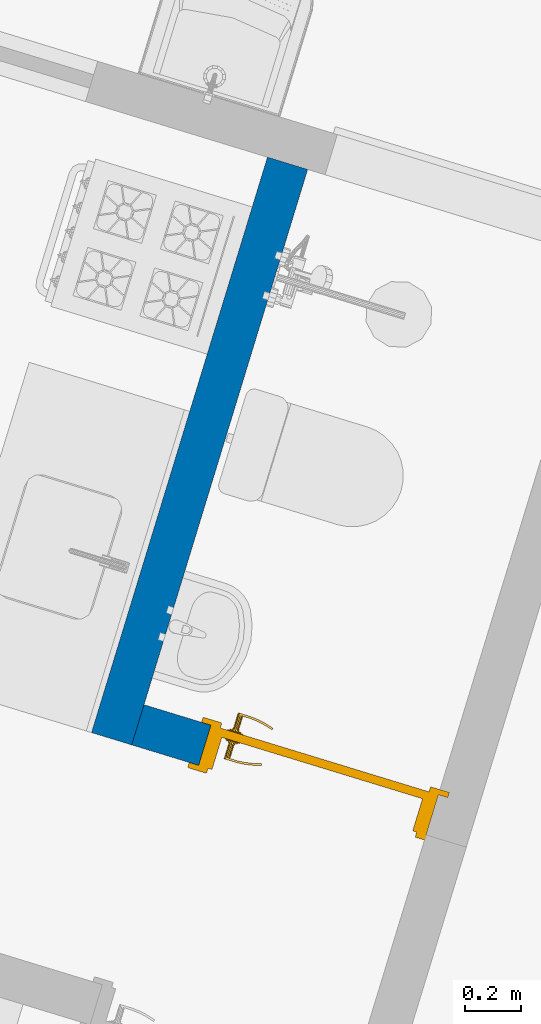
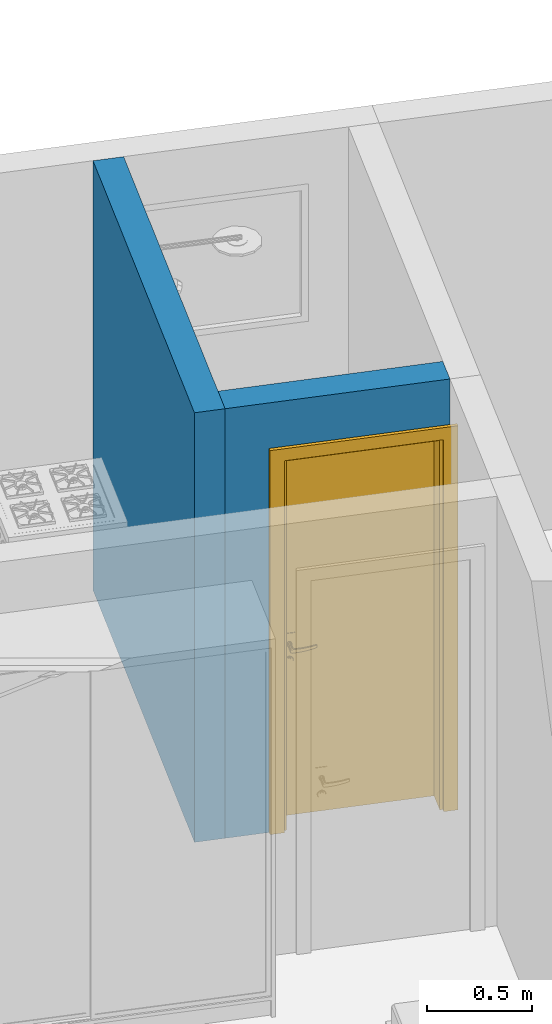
# One storey, part 7 of 13: 2 walls, 1 door, 1 opening.
"""IFC2X3 building model written with IfcOpenShell, lengths in millimetres."""

from ifc_helpers import new_model, entity, si_unit, converted_unit, derived_unit, money_unit, direction, frame, origin_with_axes, place, context, subcontext, project, spatial, open_shell, faceted_brep, surface_model, material, type_object, element, fill, save


model = new_model("IFC2X3")

# Units and contexts
model_context = context("Model", 3, precision=0.01, world=origin_with_axes(), true_north=direction((0.0, 1.0)))
body_context = subcontext(model_context, "Body", "Model", "MODEL_VIEW")
ifc_project = project(units=[si_unit("LENGTHUNIT", "METRE", prefix="MILLI"), si_unit("AREAUNIT", "SQUARE_METRE"), si_unit("VOLUMEUNIT", "CUBIC_METRE"), converted_unit("PLANEANGLEUNIT", "DEGREE", entity("IfcPlaneAngleMeasure", 0.0174532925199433), si_unit("PLANEANGLEUNIT", "RADIAN"), dimensions=[0, 0, 0, 0, 0, 0, 0]), money_unit("USD"), converted_unit("TIMEUNIT", "Year", entity("IfcTimeMeasure", 31557600.0), si_unit("TIMEUNIT", "SECOND"), dimensions=[0, 0, 1, 0, 0, 0, 0]), si_unit("MASSUNIT", "GRAM", prefix="KILO"), si_unit("THERMODYNAMICTEMPERATUREUNIT", "DEGREE_CELSIUS"), si_unit("LUMINOUSINTENSITYUNIT", "LUMEN"), si_unit("ENERGYUNIT", "JOULE", prefix="MEGA"), derived_unit("THERMALCONDUCTANCEUNIT", [(si_unit("POWERUNIT", "WATT"), 1), (si_unit("LENGTHUNIT", "METRE"), -1), (si_unit("THERMODYNAMICTEMPERATUREUNIT", "KELVIN"), -1)]), derived_unit("SPECIFICHEATCAPACITYUNIT", [(si_unit("ENERGYUNIT", "JOULE"), 1), (si_unit("MASSUNIT", "GRAM", prefix="KILO"), -1), (si_unit("THERMODYNAMICTEMPERATUREUNIT", "KELVIN"), -1)]), derived_unit("MASSDENSITYUNIT", [(si_unit("MASSUNIT", "GRAM", prefix="KILO"), 1), (si_unit("VOLUMEUNIT", "CUBIC_METRE"), -1)])], contexts=[model_context])

# Site, building, storey
site_placement = place(None, frame((0.0, 0.0, 0.0), z_axis=(0.0, 0.0, 1.0), x_axis=(0.9563047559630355, -0.2923717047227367, 0.0)))
site = spatial("IfcSite", under=ifc_project, at=site_placement, Name="Site", CompositionType="ELEMENT")
building_placement = place(site_placement, origin_with_axes())
building = spatial("IfcBuilding", under=site, at=building_placement, Name="Casa Térrea Isolada", CompositionType="ELEMENT")
storey_placement = place(building_placement, origin_with_axes())
storey = spatial("IfcBuildingStorey", under=building, at=storey_placement, Name="Terreo", CompositionType="ELEMENT", Elevation=0.0)

# Wall
ifc_material = material(Name="Bloco de Concreto - Estrutural")
wall_type = type_object("IfcWallType", Name="Bloco de Concreto - Estrutural 150", PredefinedType="NOTDEFINED")
wall_1_placement = place(storey_placement, frame((5125.003384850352, 4224.999878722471, 0.0), z_axis=(0.0, 0.0, 1.0), x_axis=(-4.610697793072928e-07, 0.9999999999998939, 0.0)))
element("IfcWall", 1, at=wall_1_placement, inside=storey, type_object=wall_type, material=ifc_material, Name="Parede 07", context=body_context, shape_type="Brep", body=[
    faceted_brep([(2075.002484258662, -75.00000000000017, 2500.0), (2075.002484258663, 75.00000000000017, 2500.0), (-74.99999999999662, 74.99999999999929, 2500.0), (-74.99999999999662, -75.00000000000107, 2500.0), (2075.002484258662, -75.00000000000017, 0.0), (2075.002484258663, 75.00000000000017, 0.0), (-74.99999999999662, 74.99999999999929, 0.0), (-74.99999999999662, -75.00000000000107, 0.0)], [[[0, 1, 2, 3]], [[1, 0, 4, 5]], [[1, 5, 6, 2]], [[7, 3, 2, 6]], [[4, 0, 3, 7]], [[5, 4, 7, 6]]]),
])

# Wall, opening, door
wall_2_placement = place(storey_placement, frame((6450.002847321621, 4225.000489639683, 0.0), z_axis=(0.0, 0.0, 1.0), x_axis=(-0.9999999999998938, -4.610697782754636e-07, 0.0)))
wall_2 = element("IfcWall", 2, at=wall_2_placement, inside=storey, type_object=wall_type, material=ifc_material, Name="Parede 02", context=body_context, shape_type="Brep", body=[
    faceted_brep([(150.0000345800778, 75.00000000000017, 2200.0), (150.0000345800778, -75.00000000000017, 2200.0), (150.0018788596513, -75.00000000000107, 2500.0), (150.0018788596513, 74.99999999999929, 2500.0), (1000.000034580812, -75.00000000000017, 2200.0), (1000.000034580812, 75.00000000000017, 2200.0), (1000.000034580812, -75.00000000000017, 0.0), (1249.999462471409, -75.00000000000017, 0.0), (1249.999462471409, -75.00000000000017, 2500.0), (1249.999462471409, 75.00000000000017, 2500.0), (1249.999462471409, 74.99999999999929, 0.0), (1000.000034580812, 74.99999999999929, 0.0)], [[[0, 1, 2, 3]], [[4, 1, 0, 5]], [[4, 6, 7, 8, 2, 1]], [[9, 3, 2, 8]], [[5, 0, 3, 9, 10, 11]], [[6, 4, 5, 11]], [[6, 11, 10, 7]], [[8, 7, 10, 9]]]),
])
opening_placement = place(wall_2_placement, frame((575.0000345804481, 0.0, 0.0), z_axis=(0.0, 0.0, 1.0), x_axis=(1.0, 0.0, 0.0)))
opening = element("IfcOpeningElement", 3, at=opening_placement, cuts=wall_2, Name="Porta 04", context=body_context, shape_type="Brep", body=[
    faceted_brep([(425.0000000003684, -76.00061091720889, 2200.0), (-425.0000000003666, -76.00061091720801, 2200.0), (-425.0000000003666, -76.00061091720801, 0.0), (425.0000000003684, -76.00061091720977, 0.0), (460.0000000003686, -76.00061091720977, 0.0), (460.0000000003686, -76.00061091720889, 2235.0), (-460.0000000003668, -76.00061091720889, 2235.0), (-460.0000000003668, -76.00061091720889, 0.0), (425.0000000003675, -75.00000000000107, 0.0), (-425.0000000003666, -74.99999999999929, 0.0), (-425.0000000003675, 75.00000000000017, 0.0), (-425.0000000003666, 76.00061091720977, 0.0), (425.0000000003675, 76.00061091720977, 0.0), (425.0000000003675, 74.99999999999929, 0.0), (460.0000000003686, -75.00000000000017, 0.0), (460.0000000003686, -74.99999999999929, 2235.0), (-460.0000000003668, -75.00000000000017, 2235.0), (-460.0000000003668, -75.00000000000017, 0.0), (-425.0000000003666, -74.99999999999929, 2200.0), (-425.0000000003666, 75.00000000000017, 2200.0), (-460.0000000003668, 74.99999999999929, 0.0), (-460.0000000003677, 76.00061091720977, 0.0), (-460.0000000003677, 76.00061091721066, 2235.0), (460.0000000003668, 76.00061091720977, 2235.0), (460.0000000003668, 76.00061091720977, 0.0), (460.0000000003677, 75.00000000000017, 0.0), (425.0000000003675, -75.00000000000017, 2200.0), (425.0000000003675, 74.99999999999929, 2200.0), (460.0000000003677, 75.00000000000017, 2235.0), (-460.0000000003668, 75.00000000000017, 2235.0)], [[[0, 1, 2, 3]], [[2, 1, 0, 3, 4, 5, 6, 7]], [[8, 3, 2, 9, 10, 11, 12, 13]], [[3, 8, 14, 4]], [[14, 15, 5, 4]], [[15, 16, 6, 5]], [[16, 17, 7, 6]], [[9, 2, 7, 17]], [[9, 18, 19, 10]], [[11, 10, 20, 21]], [[12, 11, 21, 22, 23, 24]], [[13, 12, 24, 25]], [[26, 8, 13, 27]], [[26, 18, 9, 17, 16, 15, 14, 8]], [[18, 26, 27, 19]], [[10, 19, 27, 13, 25, 28, 29, 20]], [[20, 29, 22, 21]], [[29, 28, 23, 22]], [[28, 25, 24, 23]]]),
])
door_style = type_object("IfcDoorStyle", Name="Porta 26", ConstructionType="NOTDEFINED", OperationType="SINGLE_SWING_RIGHT", ParameterTakesPrecedence=False, Sizeable=False)
door_placement = place(opening_placement, frame((425.0000000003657, 0.0, 0.0), z_axis=(0.0, 0.0, 1.0), x_axis=(-1.0, 0.0, 0.0)))
door = element("IfcDoor", 4, at=door_placement, inside=storey, type_object=door_style, Name="Porta 04", OverallHeight=2200.0, OverallWidth=850.0, context=body_context, shape_type="SurfaceModel", body=[
    faceted_brep([(-35.00000000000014, -94.00000000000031, 0.0), (-35.00000000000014, -75.00000000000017, 0.0), (35.00000000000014, -75.00000000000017, 0.0), (35.00000000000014, -94.00000000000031, 0.0), (-35.00000000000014, -94.00000000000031, 2235.0), (-35.00000000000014, -75.00000000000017, 2235.0), (35.00000000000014, -75.00000000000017, 2165.0), (35.00000000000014, -94.0000000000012, 2165.0)], [[[0, 1, 2, 3]], [[4, 5, 1, 0]], [[1, 5, 6, 2]], [[3, 2, 6, 7]], [[0, 3, 7, 4]], [[7, 6, 5, 4]]]),
    faceted_brep([(885.0000000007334, -94.00000000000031, 2235.0), (885.0000000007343, -75.00000000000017, 2235.0), (815.0000000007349, -75.00000000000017, 2165.0), (815.0000000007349, -94.0000000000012, 2165.0), (885.0000000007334, -94.00000000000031, 0.0), (885.0000000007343, -74.99999999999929, 0.0), (815.0000000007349, -75.00000000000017, 0.0), (815.0000000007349, -94.00000000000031, 0.0)], [[[0, 1, 2, 3]], [[4, 5, 1, 0]], [[1, 5, 6, 2]], [[3, 2, 6, 7]], [[0, 3, 7, 4]], [[7, 6, 5, 4]]]),
    faceted_brep([(-35.00000000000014, -94.00000000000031, 2235.0), (-35.00000000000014, -75.00000000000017, 2235.0), (35.00000000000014, -75.00000000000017, 2165.0), (35.00000000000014, -94.0000000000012, 2165.0), (885.0000000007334, -94.00000000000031, 2235.0), (885.0000000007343, -75.00000000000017, 2235.0), (815.0000000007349, -75.00000000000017, 2165.0), (815.0000000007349, -94.0000000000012, 2165.0)], [[[0, 1, 2, 3]], [[4, 5, 1, 0]], [[1, 5, 6, 2]], [[3, 2, 6, 7]], [[0, 3, 7, 4]], [[7, 6, 5, 4]]]),
    faceted_brep([(-35.00000000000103, 93.99999999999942, 0.0), (35.00000000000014, 93.99999999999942, 0.0), (35.00000000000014, 75.00000000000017, 0.0), (-35.00000000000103, 75.00000000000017, 0.0), (-35.00000000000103, 93.99999999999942, 2235.0), (35.00000000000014, 93.99999999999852, 2165.0), (35.00000000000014, 75.00000000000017, 2165.0), (-35.00000000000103, 74.99999999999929, 2235.0)], [[[0, 1, 2, 3]], [[0, 4, 5, 1]], [[1, 5, 6, 2]], [[3, 2, 6, 7]], [[4, 0, 3, 7]], [[5, 4, 7, 6]]]),
    faceted_brep([(885.0000000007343, 93.99999999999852, 2235.0), (815.0000000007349, 93.99999999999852, 2165.0), (815.0000000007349, 74.99999999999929, 2165.0), (885.0000000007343, 75.00000000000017, 2235.0), (885.0000000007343, 93.99999999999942, 0.0), (815.0000000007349, 93.99999999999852, 0.0), (815.0000000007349, 75.00000000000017, 0.0), (885.0000000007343, 75.00000000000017, 0.0)], [[[0, 1, 2, 3]], [[0, 4, 5, 1]], [[1, 5, 6, 2]], [[3, 2, 6, 7]], [[4, 0, 3, 7]], [[5, 4, 7, 6]]]),
    faceted_brep([(-35.00000000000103, 93.99999999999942, 2235.0), (35.00000000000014, 93.99999999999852, 2165.0), (35.00000000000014, 75.00000000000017, 2165.0), (-35.00000000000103, 74.99999999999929, 2235.0), (885.0000000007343, 93.99999999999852, 2235.0), (815.0000000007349, 93.99999999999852, 2165.0), (815.0000000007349, 74.99999999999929, 2165.0), (885.0000000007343, 75.00000000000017, 2235.0)], [[[0, 1, 2, 3]], [[0, 4, 5, 1]], [[1, 5, 6, 2]], [[3, 2, 6, 7]], [[4, 0, 3, 7]], [[5, 4, 7, 6]]]),
    faceted_brep([(49.99999999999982, 44.99999999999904, 0.0), (49.99999999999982, 44.99999999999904, 2150.0), (49.99999999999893, -74.99999999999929, 2150.0), (49.99999999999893, -74.99999999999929, 0.0), (40.00000000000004, 44.99999999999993, 2150.0), (40.00000000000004, 44.99999999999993, 0.0), (39.99999999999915, 75.00000000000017, 2150.0), (0.0, 75.00000000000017, 2150.0), (0.0, -74.99999999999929, 2150.0), (0.0, -74.99999999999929, 0.0), (0.0, 75.00000000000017, 0.0), (39.99999999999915, 75.00000000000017, 0.0)], [[[0, 1, 2, 3]], [[4, 1, 0, 5]], [[4, 6, 7, 8, 2, 1]], [[3, 2, 8, 9]], [[5, 0, 3, 9, 10, 11]], [[6, 4, 5, 11]], [[6, 11, 10, 7]], [[10, 9, 8, 7]]]),
    faceted_brep([(810.0000000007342, 44.99999999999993, 2150.0), (800.0000000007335, 44.99999999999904, 2150.0), (800.0000000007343, -75.00000000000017, 2150.0), (850.0000000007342, -75.00000000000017, 2150.0), (850.0000000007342, 74.99999999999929, 2150.0), (810.0000000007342, 75.00000000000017, 2150.0), (810.0000000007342, 44.99999999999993, 0.0), (800.0000000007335, 44.99999999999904, 0.0), (800.0000000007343, -75.00000000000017, 0.0), (850.0000000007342, -75.00000000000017, 0.0), (850.0000000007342, 75.00000000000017, 0.0), (810.0000000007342, 75.00000000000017, 0.0)], [[[0, 1, 2, 3, 4, 5]], [[1, 0, 6, 7]], [[1, 7, 8, 2]], [[3, 2, 8, 9]], [[4, 3, 9, 10]], [[11, 5, 4, 10]], [[0, 5, 11, 6]], [[6, 11, 10, 9, 8, 7]]]),
    faceted_brep([(39.99999999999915, 75.00000000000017, 2160.0), (39.99999999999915, 75.00000000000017, 2150.0), (0.0, 75.00000000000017, 2150.0), (0.0, 75.00000000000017, 2200.0), (850.0000000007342, 74.99999999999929, 2200.0), (850.0000000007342, 74.99999999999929, 2150.0), (810.0000000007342, 75.00000000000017, 2150.0), (810.0000000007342, 75.00000000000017, 2160.0), (40.00000000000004, 44.99999999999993, 2160.0), (40.00000000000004, 44.99999999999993, 2150.0), (49.99999999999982, 44.99999999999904, 2150.0), (49.99999999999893, -74.99999999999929, 2150.0), (0.0, -74.99999999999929, 2150.0), (0.0, -74.99999999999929, 2200.0), (850.0000000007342, -75.00000000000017, 2200.0), (850.0000000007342, -75.00000000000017, 2150.0), (810.0000000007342, 44.99999999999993, 2150.0), (800.0000000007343, -75.00000000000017, 2150.0), (800.0000000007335, 44.99999999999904, 2150.0), (810.0000000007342, 44.99999999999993, 2160.0)], [[[0, 1, 2, 3, 4, 5, 6, 7]], [[1, 0, 8, 9]], [[9, 10, 11, 12, 2, 1]], [[2, 12, 13, 3]], [[3, 13, 14, 4]], [[4, 14, 15, 5]], [[16, 6, 5, 15, 17, 18]], [[7, 6, 16, 19]], [[0, 7, 19, 8]], [[16, 18, 10, 9, 8, 19]], [[10, 18, 17, 11]], [[17, 15, 14, 13, 12, 11]]]),
    faceted_brep([(61.50000000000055, 44.99999999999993, 1060.0), (61.49999999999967, 42.0000000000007, 1060.0), (118.5000000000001, 41.99999999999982, 1060.0), (118.5000000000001, 44.99999999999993, 1060.0), (61.50000000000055, 44.99999999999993, 870.0), (61.49999999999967, 42.0000000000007, 870.0), (118.5000000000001, 42.0000000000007, 870.0), (118.5000000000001, 44.99999999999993, 870.0)], [[[0, 1, 2, 3]], [[4, 5, 1, 0]], [[1, 5, 6, 2]], [[3, 2, 6, 7]], [[0, 3, 7, 4]], [[7, 6, 5, 4]]]),
    faceted_brep([(89.99999999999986, -19.00000000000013, 990.0), (89.99999999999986, -25.9999999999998, 990.0), (84.99999999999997, -25.9999999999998, 991.3397459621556), (84.99999999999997, -19.00000000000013, 991.3397459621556), (115.0000000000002, -19.00000000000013, 990.0), (115.0000000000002, -25.9999999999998, 990.0), (115.0000000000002, -25.9999999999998, 1010.0), (89.99999999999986, -25.9999999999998, 1010.0), (84.99999999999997, -25.9999999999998, 1008.660254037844), (81.33974596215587, -25.9999999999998, 1005.0), (79.99999999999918, -25.9999999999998, 1000.0), (81.33974596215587, -25.9999999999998, 995.0), (81.33974596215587, -19.00000000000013, 995.0), (79.99999999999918, -19.00000000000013, 1000.0), (81.33974596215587, -19.00000000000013, 1005.0), (84.99999999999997, -19.00000000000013, 1008.660254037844), (89.99999999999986, -19.00000000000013, 1010.0), (115.0000000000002, -19.00000000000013, 1010.0)], [[[0, 1, 2, 3]], [[4, 5, 1, 0]], [[1, 5, 6, 7, 8, 9, 10, 11, 2]], [[3, 2, 11, 12]], [[0, 3, 12, 13, 14, 15, 16, 17, 4]], [[17, 6, 5, 4]], [[16, 7, 6, 17]], [[15, 8, 7, 16]], [[14, 9, 8, 15]], [[13, 10, 9, 14]], [[12, 11, 10, 13]]]),
    surface_model("IfcShellBasedSurfaceModel", [(115.0000000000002, -19.00000000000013, 1010.0), (128.4039094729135, -25.9999999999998, 1009.607300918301), (128.0982828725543, -19.00000000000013, 1009.607300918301), (115.0000000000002, -25.9999999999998, 1010.0), (155.109716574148, -23.66354462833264, 1008.821902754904), (128.0982828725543, -19.00000000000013, 990.3926990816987), (115.0000000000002, -19.00000000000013, 990.0), (115.0000000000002, -25.9999999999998, 990.0), (128.4039094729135, -25.9999999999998, 990.3926990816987), (155.109716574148, -23.66354462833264, 991.1780972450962), (154.1951627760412, -16.7168188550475, 1008.821902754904), (154.1951627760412, -16.7168188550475, 991.1780972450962), (181.5102645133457, -19.00841572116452, 991.9634954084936), (181.5102645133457, -19.00841572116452, 1008.036504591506), (179.9937438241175, -12.16783295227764, 1008.036504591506), (179.9937438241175, -12.16783295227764, 991.9634954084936), (207.4046291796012, -12.07004162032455, 992.7488935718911), (207.4046291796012, -12.07004162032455, 1007.251106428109), (205.2976832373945, -5.387662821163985, 1007.251106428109), (205.2976832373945, -5.387662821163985, 992.7488935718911), (215.4612043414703, -9.137688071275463, 993.0), (215.4612043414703, -9.137688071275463, 1007.0), (213.1705579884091, -2.522170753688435, 1007.0), (213.1705579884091, -2.522170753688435, 993.0)], [open_shell([[[0, 1, 2]], [[0, 3, 1]], [[2, 1, 4]], [[0, 2, 5, 6]], [[3, 7, 8, 1]], [[1, 8, 9, 4]], [[2, 4, 10]], [[2, 10, 11, 5]], [[5, 7, 6]], [[5, 8, 7]], [[11, 9, 8]], [[4, 9, 12, 13]], [[10, 4, 13]], [[10, 14, 15, 11]], [[11, 8, 5]], [[15, 9, 11]], [[15, 12, 9]], [[13, 12, 16, 17]], [[10, 13, 14]], [[14, 18, 19, 15]], [[19, 12, 15]], [[19, 16, 12]], [[17, 16, 20, 21]], [[14, 13, 17]], [[14, 17, 18]], [[18, 22, 23, 19]], [[23, 16, 19]], [[23, 20, 16]], [[22, 21, 20, 23]], [[18, 17, 21]], [[18, 21, 22]]])]),
    faceted_brep([(100.3923048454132, 32.00000000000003, 994.0), (101.2583302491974, 41.99999999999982, 993.5), (102.9999999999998, 41.99999999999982, 1000.0), (102.0000000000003, 32.00000000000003, 1000.0), (96.00000000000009, 32.00000000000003, 989.6076951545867), (96.4999999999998, 41.99999999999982, 988.7416697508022), (89.99999999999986, 42.0000000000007, 987.0), (83.49999999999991, 42.0000000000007, 988.7416697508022), (78.74166975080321, 41.99999999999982, 993.4999999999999), (76.99999999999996, 41.99999999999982, 1000.0), (78.74166975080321, 41.99999999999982, 1006.5), (83.49999999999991, 42.0000000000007, 1011.258330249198), (89.99999999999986, 42.0000000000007, 1013.0), (96.4999999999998, 41.99999999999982, 1011.258330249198), (101.2583302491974, 41.99999999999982, 1006.5), (100.3923048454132, 32.00000000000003, 1006.0), (96.00000000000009, 32.00000000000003, 1010.392304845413), (89.99999999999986, 31.99999999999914, 1012.0), (84.00000000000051, 32.00000000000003, 1010.392304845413), (79.60769515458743, 32.00000000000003, 1006.0), (78.00000000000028, 31.99999999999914, 1000.0), (79.60769515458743, 32.00000000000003, 994.0), (84.00000000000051, 32.00000000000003, 989.6076951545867), (89.99999999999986, 31.99999999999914, 988.0)], [[[0, 1, 2, 3]], [[4, 5, 1, 0]], [[2, 1, 5, 6, 7, 8, 9, 10, 11, 12, 13, 14]], [[3, 2, 14, 15]], [[3, 15, 16, 17, 18, 19, 20, 21, 22, 23, 4, 0]], [[23, 6, 5, 4]], [[22, 7, 6, 23]], [[21, 8, 7, 22]], [[20, 9, 8, 21]], [[19, 10, 9, 20]], [[18, 11, 10, 19]], [[17, 12, 11, 18]], [[16, 13, 12, 17]], [[15, 14, 13, 16]]]),
    faceted_brep([(107.3205080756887, 37.99999999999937, 895.0), (109.052558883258, 42.0000000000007, 894.0), (112.000000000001, 42.0000000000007, 905.0), (109.9999999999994, 37.99999999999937, 905.0), (99.99999999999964, 38.00000000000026, 887.6794919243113), (101.0, 41.99999999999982, 885.9474411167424), (89.99999999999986, 42.0000000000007, 883.0), (79.00000000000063, 41.99999999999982, 885.9474411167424), (70.94744111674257, 41.99999999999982, 894.0), (67.99999999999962, 41.99999999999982, 905.0), (70.94744111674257, 41.99999999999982, 916.0), (79.00000000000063, 41.99999999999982, 924.0525588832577), (89.99999999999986, 42.0000000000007, 927.0), (101.0, 41.99999999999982, 924.0525588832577), (109.052558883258, 42.0000000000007, 916.0), (107.3205080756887, 37.99999999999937, 915.0), (99.99999999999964, 38.00000000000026, 922.3205080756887), (89.99999999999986, 37.99999999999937, 925.0), (79.99999999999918, 37.99999999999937, 922.3205080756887), (72.67949192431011, 38.00000000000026, 915.0), (70.00000000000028, 37.99999999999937, 905.0), (72.67949192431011, 38.00000000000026, 895.0), (79.99999999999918, 37.99999999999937, 887.6794919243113), (89.99999999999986, 37.99999999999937, 885.0)], [[[0, 1, 2, 3]], [[4, 5, 1, 0]], [[2, 1, 5, 6, 7, 8, 9, 10, 11, 12, 13, 14]], [[3, 2, 14, 15]], [[3, 15, 16, 17, 18, 19, 20, 21, 22, 23, 4, 0]], [[23, 6, 5, 4]], [[22, 7, 6, 23]], [[21, 8, 7, 22]], [[20, 9, 8, 21]], [[19, 10, 9, 20]], [[18, 11, 10, 19]], [[17, 12, 11, 18]], [[16, 13, 12, 17]], [[15, 14, 13, 16]]]),
    faceted_brep([(94.94974746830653, 35.99999999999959, 909.0502525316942), (95.65685424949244, 38.00000000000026, 908.3431457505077), (97.99999999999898, 38.00000000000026, 914.0), (96.99999999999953, 35.9999999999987, 914.0), (89.99999999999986, 35.9999999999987, 907.0), (89.99999999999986, 37.99999999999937, 906.0), (84.34314575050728, 37.99999999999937, 908.3431457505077), (81.99999999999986, 37.99999999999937, 914.0), (84.34314575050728, 37.99999999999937, 919.6568542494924), (89.99999999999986, 37.99999999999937, 922.0), (95.65685424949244, 38.00000000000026, 919.6568542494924), (94.94974746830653, 35.99999999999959, 918.9497474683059), (89.99999999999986, 35.9999999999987, 921.0), (85.05025253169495, 35.9999999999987, 918.9497474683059), (82.99999999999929, 35.99999999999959, 914.0), (85.05025253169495, 35.9999999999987, 909.0502525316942)], [[[0, 1, 2, 3]], [[4, 5, 1, 0]], [[2, 1, 5, 6, 7, 8, 9, 10]], [[3, 2, 10, 11]], [[3, 11, 12, 13, 14, 15, 4, 0]], [[15, 6, 5, 4]], [[14, 7, 6, 15]], [[13, 8, 7, 14]], [[12, 9, 8, 13]], [[11, 10, 9, 12]]]),
    faceted_brep([(89.99999999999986, 31.99999999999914, 1010.0), (89.99999999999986, -19.00000000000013, 1010.0), (95.00000000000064, -19.00000000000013, 1008.660254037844), (94.99999999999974, 32.00000000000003, 1008.660254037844), (84.99999999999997, 32.00000000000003, 1008.660254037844), (84.99999999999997, -19.00000000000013, 1008.660254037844), (81.33974596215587, -19.00000000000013, 1005.0), (79.99999999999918, -19.00000000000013, 1000.0), (81.33974596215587, -19.00000000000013, 995.0), (84.99999999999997, -19.00000000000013, 991.3397459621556), (89.99999999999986, -19.00000000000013, 990.0), (95.00000000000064, -19.00000000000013, 991.3397459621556), (98.66025403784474, -19.00000000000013, 995.0), (99.99999999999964, -19.00000000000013, 1000.0), (98.66025403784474, -19.00000000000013, 1005.0), (98.66025403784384, 32.00000000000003, 1005.0), (99.99999999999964, 32.00000000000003, 1000.0), (98.66025403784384, 32.00000000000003, 995.0), (94.99999999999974, 32.00000000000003, 991.3397459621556), (89.99999999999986, 31.99999999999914, 990.0), (84.99999999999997, 32.00000000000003, 991.3397459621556), (81.33974596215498, 32.00000000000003, 995.0), (80.00000000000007, 32.00000000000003, 1000.0), (81.33974596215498, 32.00000000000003, 1005.0)], [[[0, 1, 2, 3]], [[4, 5, 1, 0]], [[1, 5, 6, 7, 8, 9, 10, 11, 12, 13, 14, 2]], [[3, 2, 14, 15]], [[0, 3, 15, 16, 17, 18, 19, 20, 21, 22, 23, 4]], [[23, 6, 5, 4]], [[22, 7, 6, 23]], [[21, 8, 7, 22]], [[20, 9, 8, 21]], [[19, 10, 9, 20]], [[18, 11, 10, 19]], [[17, 12, 11, 18]], [[16, 13, 12, 17]], [[15, 14, 13, 16]]]),
    faceted_brep([(61.49999999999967, 75.00000000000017, 1060.0), (118.5000000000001, 75.00000000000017, 1060.0), (118.5000000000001, 77.9999999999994, 1060.0), (61.50000000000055, 77.9999999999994, 1060.0), (61.49999999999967, 75.00000000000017, 870.0), (118.5000000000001, 75.00000000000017, 870.0), (118.5000000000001, 77.9999999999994, 870.0), (61.50000000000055, 77.9999999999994, 870.0)], [[[0, 1, 2, 3]], [[0, 4, 5, 1]], [[1, 5, 6, 2]], [[3, 2, 6, 7]], [[4, 0, 3, 7]], [[5, 4, 7, 6]]]),
    faceted_brep([(89.99999999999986, 138.9999999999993, 990.0), (84.99999999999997, 138.9999999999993, 991.3397459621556), (84.99999999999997, 145.9999999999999, 991.3397459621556), (89.99999999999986, 145.9999999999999, 990.0), (114.9999999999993, 139.0000000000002, 990.0), (114.9999999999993, 139.0000000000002, 1010.0), (89.99999999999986, 138.9999999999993, 1010.0), (84.99999999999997, 138.9999999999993, 1008.660254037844), (81.33974596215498, 138.9999999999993, 1005.0), (80.00000000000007, 138.9999999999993, 1000.0), (81.33974596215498, 138.9999999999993, 995.0), (81.33974596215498, 145.9999999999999, 995.0), (80.00000000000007, 145.9999999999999, 1000.0), (81.33974596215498, 145.9999999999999, 1005.0), (84.99999999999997, 145.9999999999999, 1008.660254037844), (89.99999999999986, 145.9999999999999, 1010.0), (114.9999999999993, 145.999999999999, 1010.0), (114.9999999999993, 145.999999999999, 990.0)], [[[0, 1, 2, 3]], [[0, 4, 5, 6, 7, 8, 9, 10, 1]], [[1, 10, 11, 2]], [[3, 2, 11, 12, 13, 14, 15, 16, 17]], [[4, 0, 3, 17]], [[5, 4, 17, 16]], [[6, 5, 16, 15]], [[7, 6, 15, 14]], [[8, 7, 14, 13]], [[9, 8, 13, 12]], [[10, 9, 12, 11]]]),
    surface_model("IfcShellBasedSurfaceModel", [(114.9999999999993, 139.0000000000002, 1010.0), (128.0982828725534, 139.0000000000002, 1009.607300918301), (128.4039094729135, 145.9999999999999, 1009.607300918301), (114.9999999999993, 139.0000000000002, 990.0), (128.0982828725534, 139.0000000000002, 990.3926990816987), (155.1097165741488, 143.663544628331, 1008.821902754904), (114.9999999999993, 145.999999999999, 1010.0), (114.9999999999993, 145.999999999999, 990.0), (154.1951627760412, 136.7168188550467, 991.1780972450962), (154.1951627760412, 136.7168188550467, 1008.821902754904), (155.1097165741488, 143.663544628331, 991.1780972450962), (128.4039094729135, 145.9999999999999, 990.3926990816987), (179.9937438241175, 132.1678329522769, 991.9634954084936), (179.9937438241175, 132.1678329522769, 1008.036504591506), (181.5102645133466, 139.0084157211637, 1008.036504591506), (181.5102645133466, 139.0084157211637, 991.9634954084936), (205.2976832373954, 125.3876628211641, 992.7488935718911), (205.2976832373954, 125.3876628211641, 1007.251106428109), (207.4046291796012, 132.0700416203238, 1007.251106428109), (207.4046291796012, 132.0700416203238, 992.7488935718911), (213.1705579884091, 122.5221707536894, 993.0), (213.1705579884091, 122.5221707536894, 1007.0), (215.4612043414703, 129.1376880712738, 1007.0), (215.4612043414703, 129.1376880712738, 993.0)], [open_shell([[[0, 1, 2]], [[0, 3, 4, 1]], [[1, 5, 2]], [[0, 2, 6]], [[4, 3, 7]], [[1, 4, 8, 9]], [[1, 9, 5]], [[2, 5, 10, 11]], [[6, 2, 11, 7]], [[4, 7, 11]], [[8, 4, 11]], [[9, 8, 12, 13]], [[9, 14, 5]], [[5, 14, 15, 10]], [[8, 11, 10]], [[12, 8, 10]], [[13, 12, 16, 17]], [[9, 13, 14]], [[14, 18, 19, 15]], [[12, 10, 15]], [[16, 12, 15]], [[17, 16, 20, 21]], [[13, 17, 18]], [[13, 18, 14]], [[18, 22, 23, 19]], [[16, 15, 19]], [[20, 16, 19]], [[21, 20, 23, 22]], [[17, 21, 22]], [[17, 22, 18]], [[20, 19, 23]]])]),
    faceted_brep([(100.3923048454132, 88.00000000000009, 994.0), (101.9999999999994, 88.00000000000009, 1000.0), (103.0000000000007, 77.9999999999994, 1000.0), (101.2583302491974, 77.9999999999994, 993.5), (96.00000000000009, 87.99999999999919, 989.6076951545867), (89.99999999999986, 88.00000000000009, 988.0), (83.99999999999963, 87.99999999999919, 989.6076951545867), (79.60769515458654, 88.00000000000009, 994.0), (78.00000000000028, 88.00000000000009, 1000.0), (79.60769515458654, 88.00000000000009, 1006.0), (83.99999999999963, 87.99999999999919, 1010.392304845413), (89.99999999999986, 88.00000000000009, 1012.0), (96.00000000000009, 87.99999999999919, 1010.392304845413), (100.3923048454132, 88.00000000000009, 1006.0), (101.2583302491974, 77.9999999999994, 1006.5), (96.4999999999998, 77.9999999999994, 1011.258330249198), (89.99999999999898, 77.9999999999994, 1013.0), (83.49999999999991, 77.9999999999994, 1011.258330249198), (78.74166975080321, 77.9999999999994, 1006.5), (76.99999999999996, 77.9999999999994, 1000.0), (78.74166975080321, 77.9999999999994, 993.4999999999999), (83.49999999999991, 77.9999999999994, 988.7416697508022), (89.99999999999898, 77.9999999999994, 987.0), (96.4999999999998, 77.9999999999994, 988.7416697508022)], [[[0, 1, 2, 3]], [[1, 0, 4, 5, 6, 7, 8, 9, 10, 11, 12, 13]], [[1, 13, 14, 2]], [[2, 14, 15, 16, 17, 18, 19, 20, 21, 22, 23, 3]], [[4, 0, 3, 23]], [[5, 4, 23, 22]], [[6, 5, 22, 21]], [[7, 6, 21, 20]], [[8, 7, 20, 19]], [[9, 8, 19, 18]], [[10, 9, 18, 17]], [[11, 10, 17, 16]], [[12, 11, 16, 15]], [[13, 12, 15, 14]]]),
    faceted_brep([(107.3205080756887, 81.99999999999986, 895.0), (110.0000000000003, 81.99999999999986, 905.0), (112.000000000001, 77.9999999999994, 905.0), (109.052558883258, 77.9999999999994, 894.0), (99.99999999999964, 81.99999999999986, 887.6794919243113), (89.99999999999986, 81.99999999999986, 885.0), (80.00000000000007, 82.00000000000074, 887.6794919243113), (72.67949192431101, 81.99999999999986, 895.0), (70.00000000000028, 81.99999999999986, 905.0), (72.67949192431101, 81.99999999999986, 915.0), (80.00000000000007, 81.99999999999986, 922.3205080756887), (89.99999999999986, 81.99999999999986, 925.0), (99.99999999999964, 81.99999999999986, 922.3205080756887), (107.3205080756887, 81.99999999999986, 915.0), (109.052558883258, 77.9999999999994, 916.0), (101.0, 77.9999999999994, 924.0525588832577), (89.99999999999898, 77.9999999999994, 927.0), (79.00000000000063, 77.9999999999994, 924.0525588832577), (70.94744111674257, 77.9999999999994, 916.0), (67.99999999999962, 77.9999999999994, 905.0), (70.94744111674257, 77.9999999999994, 894.0), (79.00000000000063, 77.9999999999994, 885.9474411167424), (89.99999999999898, 77.9999999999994, 883.0), (101.0, 77.9999999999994, 885.9474411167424)], [[[0, 1, 2, 3]], [[1, 0, 4, 5, 6, 7, 8, 9, 10, 11, 12, 13]], [[1, 13, 14, 2]], [[2, 14, 15, 16, 17, 18, 19, 20, 21, 22, 23, 3]], [[4, 0, 3, 23]], [[5, 4, 23, 22]], [[6, 5, 22, 21]], [[7, 6, 21, 20]], [[8, 7, 20, 19]], [[9, 8, 19, 18]], [[10, 9, 18, 17]], [[11, 10, 17, 16]], [[12, 11, 16, 15]], [[13, 12, 15, 14]]]),
    faceted_brep([(94.94974746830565, 84.00000000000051, 909.0502525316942), (96.99999999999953, 84.00000000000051, 914.0), (97.99999999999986, 81.99999999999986, 914.0), (95.65685424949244, 81.99999999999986, 908.3431457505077), (89.99999999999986, 84.00000000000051, 907.0), (85.05025253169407, 84.00000000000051, 909.0502525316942), (82.99999999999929, 84.00000000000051, 914.0), (85.05025253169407, 84.00000000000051, 918.9497474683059), (89.99999999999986, 84.00000000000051, 921.0), (94.94974746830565, 84.00000000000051, 918.9497474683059), (95.65685424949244, 81.99999999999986, 919.6568542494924), (89.99999999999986, 81.99999999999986, 922.0), (84.34314575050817, 81.99999999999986, 919.6568542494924), (81.99999999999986, 81.99999999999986, 914.0), (84.34314575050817, 81.99999999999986, 908.3431457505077), (89.99999999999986, 81.99999999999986, 906.0)], [[[0, 1, 2, 3]], [[1, 0, 4, 5, 6, 7, 8, 9]], [[1, 9, 10, 2]], [[2, 10, 11, 12, 13, 14, 15, 3]], [[4, 0, 3, 15]], [[5, 4, 15, 14]], [[6, 5, 14, 13]], [[7, 6, 13, 12]], [[8, 7, 12, 11]], [[9, 8, 11, 10]]]),
    faceted_brep([(89.99999999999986, 88.00000000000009, 1010.0), (95.00000000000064, 88.00000000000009, 1008.660254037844), (94.99999999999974, 139.0000000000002, 1008.660254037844), (89.99999999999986, 138.9999999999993, 1010.0), (84.99999999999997, 88.00000000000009, 1008.660254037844), (81.33974596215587, 87.99999999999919, 1005.0), (79.99999999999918, 88.00000000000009, 1000.0), (81.33974596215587, 87.99999999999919, 995.0), (84.99999999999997, 88.00000000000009, 991.3397459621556), (89.99999999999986, 88.00000000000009, 990.0), (95.00000000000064, 88.00000000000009, 991.3397459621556), (98.66025403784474, 87.99999999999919, 995.0), (99.99999999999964, 88.00000000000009, 1000.0), (98.66025403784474, 87.99999999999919, 1005.0), (98.66025403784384, 139.0000000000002, 1005.0), (99.99999999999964, 139.0000000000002, 1000.0), (98.66025403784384, 139.0000000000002, 995.0), (94.99999999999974, 139.0000000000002, 991.3397459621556), (89.99999999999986, 138.9999999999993, 990.0), (84.99999999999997, 138.9999999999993, 991.3397459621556), (81.33974596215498, 138.9999999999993, 995.0), (80.00000000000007, 138.9999999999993, 1000.0), (81.33974596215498, 138.9999999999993, 1005.0), (84.99999999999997, 138.9999999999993, 1008.660254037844)], [[[0, 1, 2, 3]], [[0, 4, 5, 6, 7, 8, 9, 10, 11, 12, 13, 1]], [[1, 13, 14, 2]], [[3, 2, 14, 15, 16, 17, 18, 19, 20, 21, 22, 23]], [[4, 0, 3, 23]], [[5, 4, 23, 22]], [[6, 5, 22, 21]], [[7, 6, 21, 20]], [[8, 7, 20, 19]], [[9, 8, 19, 18]], [[10, 9, 18, 17]], [[11, 10, 17, 16]], [[12, 11, 16, 15]], [[13, 12, 15, 14]]]),
    faceted_brep([(810.0000000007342, 75.00000000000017, 0.0), (810.0000000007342, 44.99999999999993, 0.0), (40.00000000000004, 44.99999999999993, 0.0), (39.99999999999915, 75.00000000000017, 0.0), (810.0000000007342, 74.99999999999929, 2160.0), (810.0000000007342, 44.99999999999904, 2160.0), (40.00000000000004, 44.99999999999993, 2160.0), (39.99999999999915, 75.00000000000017, 2160.0)], [[[0, 1, 2, 3]], [[4, 5, 1, 0]], [[1, 5, 6, 2]], [[3, 2, 6, 7]], [[0, 3, 7, 4]], [[7, 6, 5, 4]]]),
])
fill(opening, door)

save(model, "model.ifc")
